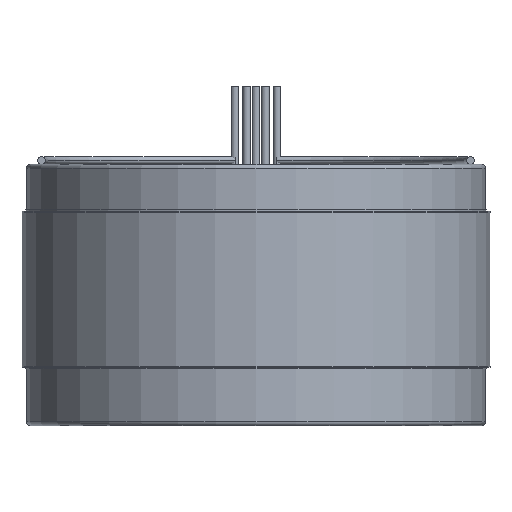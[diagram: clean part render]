
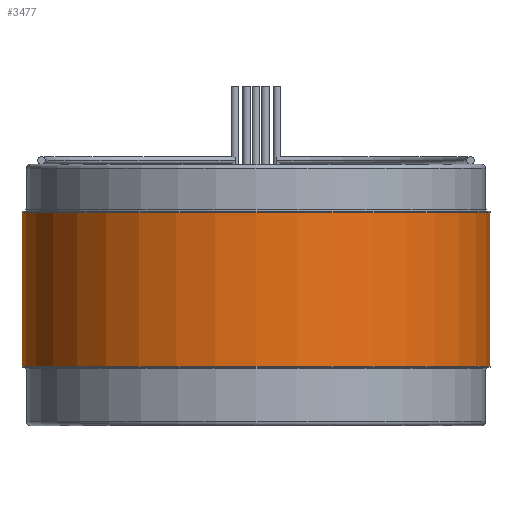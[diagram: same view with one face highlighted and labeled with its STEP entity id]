
A CAD part, front view. The second image highlights one B-rep face of the part: STEP entity #3477.
In plain terms, the highlighted cylindrical face has radius 76.2 mm (diameter 152.4 mm), a partial arc.
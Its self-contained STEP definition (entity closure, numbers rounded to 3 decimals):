
#168 = CIRCLE ( 'NONE', #1574, 76.2 ) ;
#414 = DIRECTION ( 'NONE',  ( 0., 0., 1. ) ) ;
#705 = ORIENTED_EDGE ( 'NONE', *, *, #1404, .T. ) ;
#761 = EDGE_CURVE ( 'NONE', #3433, #2118, #1473, .T. ) ;
#892 = CARTESIAN_POINT ( 'NONE',  ( -76.2, 0., 25.044 ) ) ;
#905 = LINE ( 'NONE', #2001, #1898 ) ;
#929 = ORIENTED_EDGE ( 'NONE', *, *, #761, .T. ) ;
#1172 = LINE ( 'NONE', #3411, #3436 ) ;
#1404 = EDGE_CURVE ( 'NONE', #1875, #3433, #905, .T. ) ;
#1473 = CIRCLE ( 'NONE', #2463, 76.2 ) ;
#1565 = DIRECTION ( 'NONE',  ( 1., 0., 0. ) ) ;
#1574 = AXIS2_PLACEMENT_3D ( 'NONE', #3463, #3770, #1973 ) ;
#1790 = EDGE_CURVE ( 'NONE', #1875, #2155, #168, .T. ) ;
#1875 = VERTEX_POINT ( 'NONE', #892 ) ;
#1898 = VECTOR ( 'NONE', #2322, 1000. ) ;
#1973 = DIRECTION ( 'NONE',  ( 1., 0., 0. ) ) ;
#2001 = CARTESIAN_POINT ( 'NONE',  ( -76.2, 0., 25.044 ) ) ;
#2040 = DIRECTION ( 'NONE',  ( -1., 0., 0. ) ) ;
#2044 = CYLINDRICAL_SURFACE ( 'NONE', #2494, 76.2 ) ;
#2064 = DIRECTION ( 'NONE',  ( 0., 0., -1. ) ) ;
#2118 = VERTEX_POINT ( 'NONE', #2206 ) ;
#2155 = VERTEX_POINT ( 'NONE', #3055 ) ;
#2206 = CARTESIAN_POINT ( 'NONE',  ( 76.2, 0., -25.044 ) ) ;
#2322 = DIRECTION ( 'NONE',  ( 0., 0., -1. ) ) ;
#2463 = AXIS2_PLACEMENT_3D ( 'NONE', #2465, #414, #1565 ) ;
#2465 = CARTESIAN_POINT ( 'NONE',  ( 0., 0., -25.044 ) ) ;
#2494 = AXIS2_PLACEMENT_3D ( 'NONE', #3831, #2064, #2040 ) ;
#2636 = EDGE_LOOP ( 'NONE', ( #2708, #3287, #705, #929 ) ) ;
#2708 = ORIENTED_EDGE ( 'NONE', *, *, #2876, .F. ) ;
#2831 = FACE_OUTER_BOUND ( 'NONE', #2636, .T. ) ;
#2876 = EDGE_CURVE ( 'NONE', #2155, #2118, #1172, .T. ) ;
#3055 = CARTESIAN_POINT ( 'NONE',  ( 76.2, 0., 25.044 ) ) ;
#3216 = CARTESIAN_POINT ( 'NONE',  ( -76.2, 0., -25.044 ) ) ;
#3287 = ORIENTED_EDGE ( 'NONE', *, *, #1790, .F. ) ;
#3411 = CARTESIAN_POINT ( 'NONE',  ( 76.2, 0., 25.044 ) ) ;
#3433 = VERTEX_POINT ( 'NONE', #3216 ) ;
#3436 = VECTOR ( 'NONE', #3712, 1000. ) ;
#3463 = CARTESIAN_POINT ( 'NONE',  ( 0., 0., 25.044 ) ) ;
#3477 = ADVANCED_FACE ( 'NONE', ( #2831 ), #2044, .T. ) ;
#3712 = DIRECTION ( 'NONE',  ( 0., 0., -1. ) ) ;
#3770 = DIRECTION ( 'NONE',  ( 0., 0., 1. ) ) ;
#3831 = CARTESIAN_POINT ( 'NONE',  ( 0., 0., 25.044 ) ) ;
